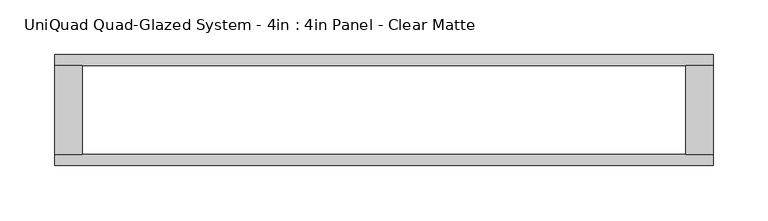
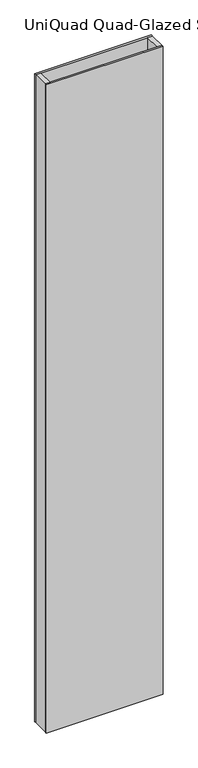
"""IFC4 building model written with IfcOpenShell, lengths in millimetres: plate geometry, UniQuad Quad-Glazed System - 4in : 4in Panel - Clear Matte."""

from ifc_helpers import new_model, si_unit, origin, origin_with_axes, place, context, project, spatial, polyline, outline, extrude, source, transform, mapped, element, save


def uniquad_quad_glazed_system_4in_4in_panel_clear_matte_11e1fce8(model_context):
    return source(origin(), model_context, "Body", "SweptSolid", [
        extrude(outline(polyline([(-300.9800781, 40.7924), (-275.5800781, 40.7924), (-275.5800781, -40.7924), (-300.9800781, -40.7924), (-300.9800781, 40.7924)])), origin_with_axes(), (0.0, 0.0, 1.0), 3530.6),
        extrude(outline(polyline([(300.9800781, 40.7924), (300.9800781, -40.7924), (275.5800781, -40.7924), (275.5800781, 40.7924), (300.9800781, 40.7924)])), origin_with_axes(), (0.0, 0.0, 1.0), 3530.6),
        extrude(outline(polyline([(300.9800781, -40.7924), (300.9800781, -50.8), (-300.9800781, -50.8), (-300.9800781, -40.7924), (300.9800781, -40.7924)])), origin_with_axes(), (0.0, 0.0, 1.0), 3530.6),
        extrude(outline(polyline([(300.9800781, 50.8), (300.9800781, 40.7924), (-300.9800781, 40.7924), (-300.9800781, 50.8), (300.9800781, 50.8)])), origin_with_axes(), (0.0, 0.0, 1.0), 3530.6),
    ])


if __name__ == "__main__":
    model = new_model("IFC4")
    model_context = context("Model", 3, world=origin())
    ifc_project = project(units=[si_unit("LENGTHUNIT", "METRE", prefix="MILLI")], contexts=[model_context])
    site = spatial("IfcSite", under=ifc_project)
    building = spatial("IfcBuilding", under=site)
    placement = place(None, origin())
    uniquad_quad_glazed_system_4in_4in_panel_clear_matte_shape = uniquad_quad_glazed_system_4in_4in_panel_clear_matte_11e1fce8(model_context)
    element("IfcPlate", 1, ObjectType="UniQuad Quad-Glazed System - 4in : 4in Panel - Clear Matte", at=placement, inside=building, context=model_context, shape_type="MappedRepresentation", body=[
        mapped(uniquad_quad_glazed_system_4in_4in_panel_clear_matte_shape, transform((0.0, 0.0, 0.0), x_axis=(1.0, 0.0, 0.0), y_axis=(0.0, 1.0, 0.0), z_axis=(0.0, 0.0, 1.0))),
    ])
    save(model, "model.ifc")
